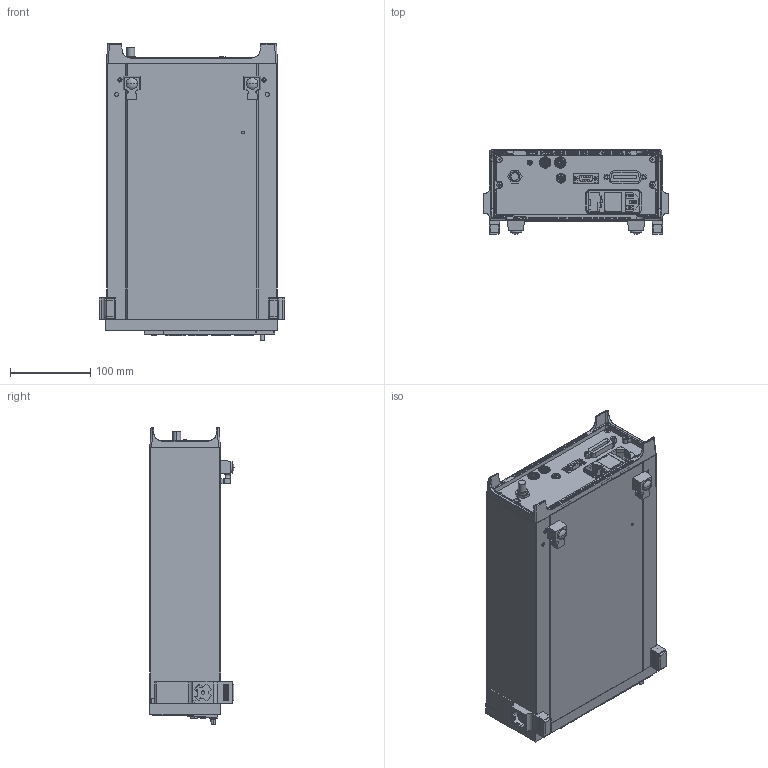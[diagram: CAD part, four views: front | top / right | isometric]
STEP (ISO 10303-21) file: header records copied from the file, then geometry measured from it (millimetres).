
FILE_DESCRIPTION((''),'2;1');
FILE_NAME('6485_ASM','2018-01-05T',('rrich'),('Keithley Instruments'),'CREO PARAMETRIC BY PTC INC, 2016050','CREO PARAMETRIC BY PTC INC, 2016050','');
FILE_SCHEMA(('CONFIG_CONTROL_DESIGN'));
Length unit declared in the file: inch
Products named in the file (45): 6485-301; 6485-303; PM-1-1; 428-303; 2001-302; 2001-371; 6485-315; 6514-313; 2001-320; 428-338; 428-328; 6485-102; CS-762; CS-501; CS-784-4; CS-368-16; CS-1027-1; CS-784-5; CS-506; 6485-309; 6485-308; 6485-DIGITAL-PCB_ASM; TR-299-NC; 2520-329; 4-40X1-4PPH; 6-32X1-4PFH; FA-232-1; CS-713; CS-725; 428-319; 500-HEXNUT; FE-22; FE-6; 4-40KEPNUT; 6-32KEPNUT; 8-32KEPNUT; ST-166-11; 4-40X1-4PPHSEM; 4-40X5-16PPHSEM; BJ-14-SHELL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
Assembly tree (61 placements, depth 3):
  6485_ASM
    6485-301
    6485-303
    PM-1-1
    428-303
    2001-302
    2001-371  x2
    6485-315
    6514-313
    2001-320
    428-338
    428-328
    6485-DIGITAL-PCB_ASM
      6485-102
      CS-762
      CS-501
      CS-784-4
      CS-368-16
      CS-1027-1
      CS-784-5
      CS-506
      6485-309
      6485-308
    TR-299-NC
    2520-329
    4-40X1-4PPH  x2
    6-32X1-4PFH  x4
    FA-232-1  x2
    CS-713  x2
    CS-725  x2
    428-319  x2
    500-HEXNUT
    FE-22  x2
    FE-6  x2
    4-40KEPNUT  x2
    6-32KEPNUT
    8-32KEPNUT  x2
    ST-166-11  x2
    4-40X1-4PPHSEM  x2
    4-40X5-16PPHSEM  x2
    BJ-14_ASM  x2
      BJ-14-SHELL
      BJ-14-PIN
    2000-307
    GCS-1
Bounding box: 231.65 x 105.44 x 370.97 mm (x, y, z)
Volume: 905302.4 mm3; surface area: 912807.2 mm2
Topology: 64 solids, 64 shells, 7334 faces, 19819 edges, 13071 vertices
Faces by surface type: plane 5665, cylinder 1469, cone 122, torus 50, sphere 16, bspline 12
Entity records: 214759 total; most frequent: CARTESIAN_POINT 41049, ORIENTED_EDGE 36600, DIRECTION 34013, EDGE_CURVE 18300, VECTOR 15229, LINE 15229, VERTEX_POINT 12083, AXIS2_PLACEMENT_3D 9392
